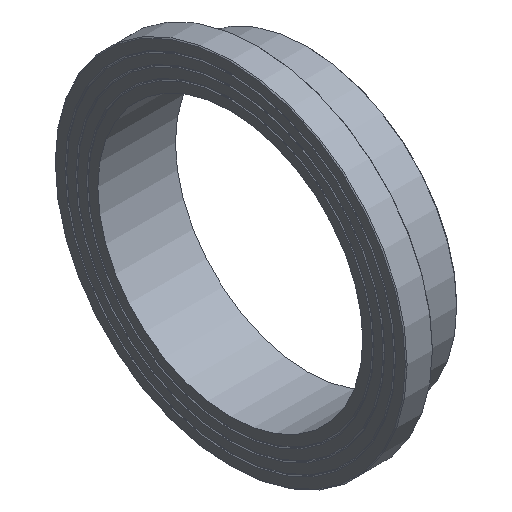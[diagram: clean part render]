
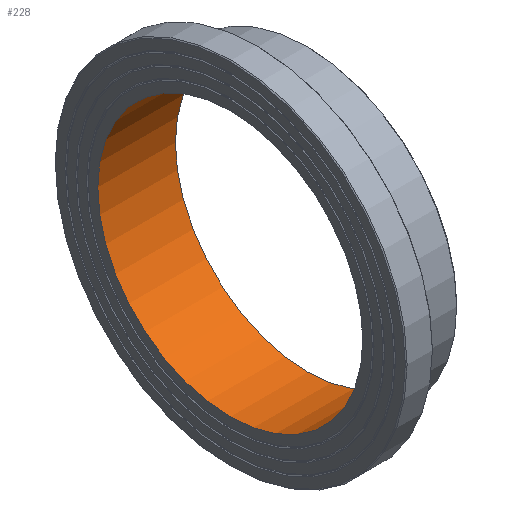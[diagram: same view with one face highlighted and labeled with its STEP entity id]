
A CAD part, isometric view. The second image highlights one B-rep face of the part: STEP entity #228.
In plain terms, the highlighted cylindrical face has radius 220.3 mm (diameter 440.6 mm), a full revolution.
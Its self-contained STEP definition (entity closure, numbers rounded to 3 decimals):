
#33=CYLINDRICAL_SURFACE('',#274,220.3);
#50=ORIENTED_EDGE('',*,*,#79,.F.);
#51=ORIENTED_EDGE('',*,*,#76,.T.);
#76=EDGE_CURVE('',#96,#96,#116,.T.);
#79=EDGE_CURVE('',#99,#99,#119,.T.);
#96=VERTEX_POINT('',#383);
#99=VERTEX_POINT('',#390);
#116=CIRCLE('',#257,220.3);
#119=CIRCLE('',#261,220.3);
#150=EDGE_LOOP('',(#50));
#151=EDGE_LOOP('',(#51));
#190=FACE_BOUND('',#150,.T.);
#191=FACE_BOUND('',#151,.T.);
#228=ADVANCED_FACE('',(#190,#191),#33,.F.);
#257=AXIS2_PLACEMENT_3D('',#382,#303,#304);
#261=AXIS2_PLACEMENT_3D('',#389,#311,#312);
#274=AXIS2_PLACEMENT_3D('',#410,#337,#338);
#303=DIRECTION('',(-1.,0.,0.));
#304=DIRECTION('',(0.,0.,1.));
#311=DIRECTION('',(-1.,0.,0.));
#312=DIRECTION('',(0.,0.,1.));
#337=DIRECTION('',(-1.,0.,0.));
#338=DIRECTION('',(0.,0.,1.));
#382=CARTESIAN_POINT('',(0.,0.,0.));
#383=CARTESIAN_POINT('',(0.,0.,220.3));
#389=CARTESIAN_POINT('',(129.,0.,0.));
#390=CARTESIAN_POINT('',(129.,0.,220.3));
#410=CARTESIAN_POINT('',(60.,0.,0.));
